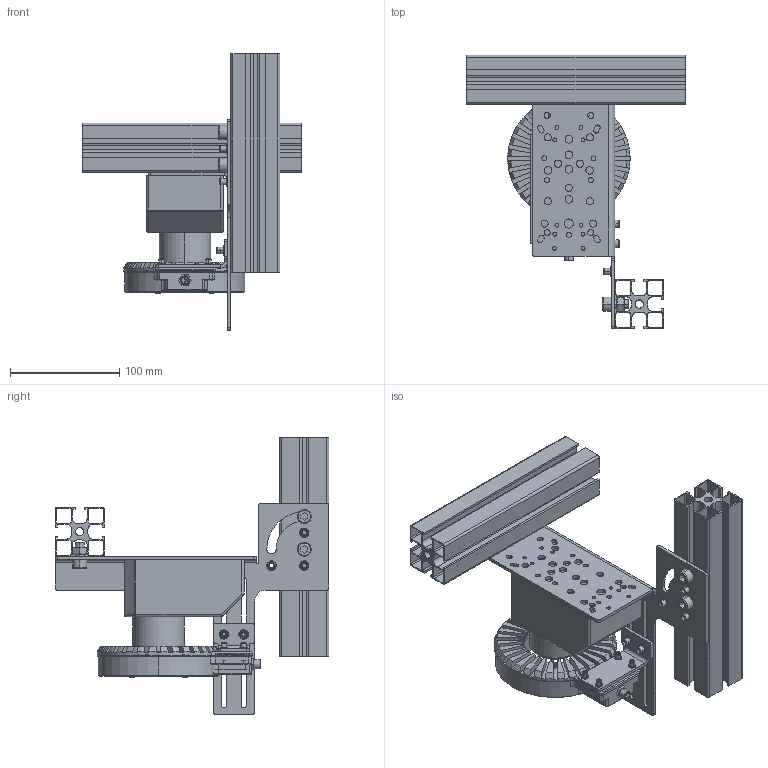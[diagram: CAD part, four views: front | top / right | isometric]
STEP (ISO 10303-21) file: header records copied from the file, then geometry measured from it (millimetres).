
FILE_DESCRIPTION (( 'STEP AP214' ), '1' );
FILE_NAME ('TPLMOUNT-HPRING-H1.STEP', '2016-05-24T07:01:45', ( 'Ludovic' ), ( '' ), 'SwSTEP 2.0', 'SolidWorks 2014', '' );
FILE_SCHEMA (( 'AUTOMOTIVE_DESIGN' ));
Length unit declared in the file: millimetre
Products named in the file (22): Vis CHC_Vis CHC M 8-16; 45x45 rainuré; 016519_D‚faut<Brut d''usinage>; EC-03-030-001-ASS-DEV; Ecrou pour connecteur M8; EC-03-030-010; Vis FHC M3-10; VIS CHB M3X8; Vis CHC M3x12_Vis CHC M 3-10; LL10-7-17-916-LUXEON; K2; EC-03-030-009-PIE-DEV; connecteur male M8; EC-03-030-005-PIE-DEV; EC-03-030-004-PIE-DEV; EC-03-030-003-PIE-DEV; ECROU_HU_DIN934_ECROU_HU_M08_A2; 016518_D‚faut<Brut d''usinage>; Vis CHC_Vis CHC M 3-16; Cam-90; TPLMOUNT-HPRING-H1; Vis CHC_Vis CHC M 4-10
Assembly tree (61 placements, depth 3):
  TPLMOUNT-HPRING-H1
    016518_D‚faut<Brut d''usinage>
    EC-03-030-001-ASS-DEV
      EC-03-030-003-PIE-DEV
      EC-03-030-004-PIE-DEV
      EC-03-030-005-PIE-DEV
      connecteur male M8
      EC-03-030-009-PIE-DEV
      K2  x12
      LL10-7-17-916-LUXEON  x12
      Vis CHC M3x12_Vis CHC M 3-10  x4
      VIS CHB M3X8  x4
      Vis FHC M3-10  x2
      EC-03-030-010
      Ecrou pour connecteur M8
    016519_D‚faut<Brut d''usinage>
    45x45 rainuré  x2
    Vis CHC_Vis CHC M 8-16  x4
    Vis CHC_Vis CHC M 4-10  x2
    Cam-90
    Vis CHC_Vis CHC M 3-16  x4
    ECROU_HU_DIN934_ECROU_HU_M08_A2  x4
Bounding box: 200 x 250.5 x 253 mm (x, y, z)
Volume: 892349.6 mm3; surface area: 460608.4 mm2
Topology: 69 solids, 69 shells, 2852 faces, 7291 edges, 4704 vertices
Faces by surface type: plane 1445, cylinder 985, cone 309, torus 67, sphere 40, bspline 6
Entity records: 47335 total; most frequent: CARTESIAN_POINT 8337, DIRECTION 8192, ORIENTED_EDGE 7372, EDGE_CURVE 3686, AXIS2_PLACEMENT_3D 3176, VERTEX_POINT 2364, LINE 1840, VECTOR 1840
